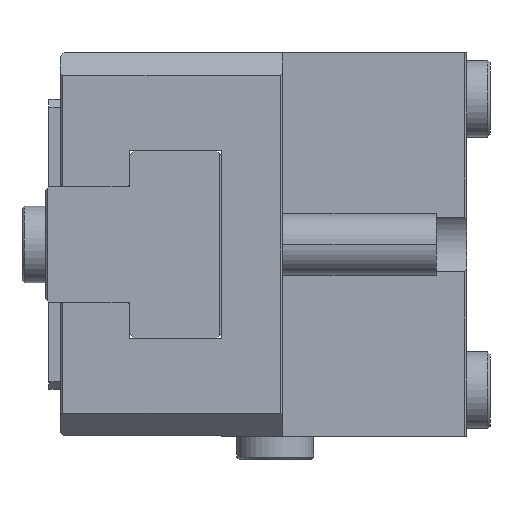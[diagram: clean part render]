
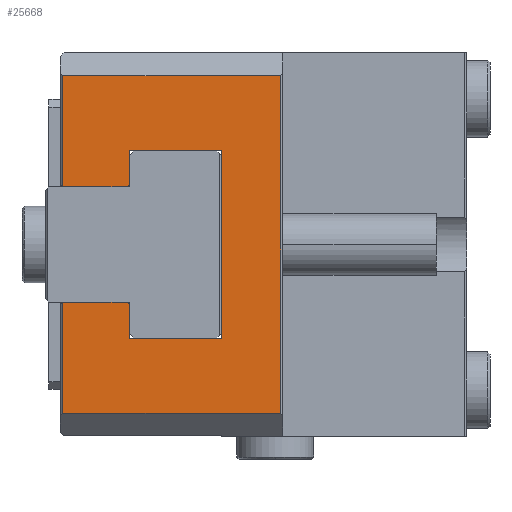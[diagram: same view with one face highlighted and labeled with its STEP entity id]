
A CAD part, left-side view. The second image highlights one B-rep face of the part: STEP entity #25668.
In plain terms, the highlighted planar face has unit normal (-1, 0, 0).
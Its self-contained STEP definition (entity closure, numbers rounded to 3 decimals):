
#160 = CARTESIAN_POINT ( 'NONE',  ( -50., 52.7, 25. ) ) ;
#210 = VECTOR ( 'NONE', #12084, 1000. ) ;
#807 = LINE ( 'NONE', #11211, #41791 ) ;
#1166 = VERTEX_POINT ( 'NONE', #8634 ) ;
#1220 = VECTOR ( 'NONE', #25593, 1000. ) ;
#1592 = CARTESIAN_POINT ( 'NONE',  ( -50., 52.7, 7.5 ) ) ;
#2272 = PLANE ( 'NONE',  #37087 ) ;
#2564 = LINE ( 'NONE', #48429, #34236 ) ;
#3483 = ORIENTED_EDGE ( 'NONE', *, *, #38286, .F. ) ;
#4231 = VERTEX_POINT ( 'NONE', #37249 ) ;
#5763 = CARTESIAN_POINT ( 'NONE',  ( -50., 44., 25. ) ) ;
#6965 = VECTOR ( 'NONE', #45436, 1000. ) ;
#7151 = LINE ( 'NONE', #38546, #49264 ) ;
#7448 = CARTESIAN_POINT ( 'NONE',  ( -50., 24.3, -22. ) ) ;
#7533 = CARTESIAN_POINT ( 'NONE',  ( -50., 52.7, 22. ) ) ;
#8198 = DIRECTION ( 'NONE',  ( 0., 0., 1. ) ) ;
#8634 = CARTESIAN_POINT ( 'NONE',  ( -50., 52.7, -7.5 ) ) ;
#9062 = CARTESIAN_POINT ( 'NONE',  ( -50., 52.7, -7.5 ) ) ;
#9096 = EDGE_CURVE ( 'NONE', #30974, #11066, #22378, .T. ) ;
#9587 = CARTESIAN_POINT ( 'NONE',  ( -50., 44., -7.8 ) ) ;
#10587 = LINE ( 'NONE', #9587, #31635 ) ;
#11066 = VERTEX_POINT ( 'NONE', #22488 ) ;
#11144 = VECTOR ( 'NONE', #26949, 1000. ) ;
#11211 = CARTESIAN_POINT ( 'NONE',  ( -50., 32., 25. ) ) ;
#12084 = DIRECTION ( 'NONE',  ( 0., -1., 0. ) ) ;
#12257 = ORIENTED_EDGE ( 'NONE', *, *, #43160, .F. ) ;
#12749 = ORIENTED_EDGE ( 'NONE', *, *, #30125, .T. ) ;
#13035 = VERTEX_POINT ( 'NONE', #24021 ) ;
#13566 = ORIENTED_EDGE ( 'NONE', *, *, #20462, .F. ) ;
#15342 = DIRECTION ( 'NONE',  ( 0., 0., 1. ) ) ;
#17097 = LINE ( 'NONE', #24599, #46248 ) ;
#17498 = LINE ( 'NONE', #5763, #6965 ) ;
#17939 = CARTESIAN_POINT ( 'NONE',  ( -50., 32., 12.3 ) ) ;
#18709 = LINE ( 'NONE', #9062, #30477 ) ;
#20462 = EDGE_CURVE ( 'NONE', #50859, #4231, #17498, .T. ) ;
#21281 = ORIENTED_EDGE ( 'NONE', *, *, #46861, .T. ) ;
#21360 = CARTESIAN_POINT ( 'NONE',  ( -50., 44., 25. ) ) ;
#21369 = LINE ( 'NONE', #39804, #210 ) ;
#21613 = EDGE_CURVE ( 'NONE', #1166, #13035, #18709, .T. ) ;
#22115 = CARTESIAN_POINT ( 'NONE',  ( -50., 102.7, 22. ) ) ;
#22378 = LINE ( 'NONE', #22115, #1220 ) ;
#22453 = CARTESIAN_POINT ( 'NONE',  ( -50., 52.7, 25. ) ) ;
#22488 = CARTESIAN_POINT ( 'NONE',  ( -50., 24.3, 22. ) ) ;
#22828 = DIRECTION ( 'NONE',  ( 0., 1., 0. ) ) ;
#23941 = EDGE_CURVE ( 'NONE', #38491, #1166, #42752, .T. ) ;
#24021 = CARTESIAN_POINT ( 'NONE',  ( -50., 44.3, -7.5 ) ) ;
#24093 = ORIENTED_EDGE ( 'NONE', *, *, #48877, .F. ) ;
#24599 = CARTESIAN_POINT ( 'NONE',  ( -50., 52.7, -22. ) ) ;
#24632 = CARTESIAN_POINT ( 'NONE',  ( -50., 44.3, 7.5 ) ) ;
#25245 = CARTESIAN_POINT ( 'NONE',  ( -50., 52.7, -22. ) ) ;
#25341 = DIRECTION ( 'NONE',  ( 0., 0., -1. ) ) ;
#25551 = ORIENTED_EDGE ( 'NONE', *, *, #47675, .F. ) ;
#25593 = DIRECTION ( 'NONE',  ( 0., -1., 0. ) ) ;
#25668 = ADVANCED_FACE ( 'NONE', ( #27792 ), #2272, .F. ) ;
#25732 = VECTOR ( 'NONE', #48125, 1000. ) ;
#26408 = LINE ( 'NONE', #21360, #36858 ) ;
#26441 = DIRECTION ( 'NONE',  ( 0., 1., 0. ) ) ;
#26949 = DIRECTION ( 'NONE',  ( 0., 0., 1. ) ) ;
#27766 = LINE ( 'NONE', #35766, #37010 ) ;
#27792 = FACE_OUTER_BOUND ( 'NONE', #42669, .T. ) ;
#27888 = ORIENTED_EDGE ( 'NONE', *, *, #9096, .F. ) ;
#30125 = EDGE_CURVE ( 'NONE', #35592, #4231, #46775, .T. ) ;
#30477 = VECTOR ( 'NONE', #36729, 1000. ) ;
#30974 = VERTEX_POINT ( 'NONE', #7533 ) ;
#31404 = VECTOR ( 'NONE', #8198, 1000. ) ;
#31635 = VECTOR ( 'NONE', #37245, 1000. ) ;
#32619 = LINE ( 'NONE', #160, #31404 ) ;
#32901 = EDGE_CURVE ( 'NONE', #41756, #11066, #2564, .T. ) ;
#33701 = CARTESIAN_POINT ( 'NONE',  ( -50., 44., -7.8 ) ) ;
#34236 = VECTOR ( 'NONE', #48256, 1000. ) ;
#35029 = EDGE_CURVE ( 'NONE', #38598, #13035, #10587, .T. ) ;
#35592 = VERTEX_POINT ( 'NONE', #50855 ) ;
#35766 = CARTESIAN_POINT ( 'NONE',  ( -50., 52.7, 12.3 ) ) ;
#35868 = CARTESIAN_POINT ( 'NONE',  ( -50., 32., -12.3 ) ) ;
#36729 = DIRECTION ( 'NONE',  ( 0., -1., 0. ) ) ;
#36858 = VECTOR ( 'NONE', #25341, 1000. ) ;
#37010 = VECTOR ( 'NONE', #39779, 1000. ) ;
#37087 = AXIS2_PLACEMENT_3D ( 'NONE', #22453, #50114, #26441 ) ;
#37241 = ORIENTED_EDGE ( 'NONE', *, *, #23941, .F. ) ;
#37245 = DIRECTION ( 'NONE',  ( 0., 0.707, 0.707 ) ) ;
#37249 = CARTESIAN_POINT ( 'NONE',  ( -50., 44., 7.8 ) ) ;
#38286 = EDGE_CURVE ( 'NONE', #44442, #50859, #27766, .T. ) ;
#38373 = CARTESIAN_POINT ( 'NONE',  ( -50., 44., 12.3 ) ) ;
#38491 = VERTEX_POINT ( 'NONE', #25245 ) ;
#38546 = CARTESIAN_POINT ( 'NONE',  ( -50., 52.7, 7.5 ) ) ;
#38598 = VERTEX_POINT ( 'NONE', #33701 ) ;
#39723 = ORIENTED_EDGE ( 'NONE', *, *, #49330, .F. ) ;
#39779 = DIRECTION ( 'NONE',  ( 0., 1., 0. ) ) ;
#39804 = CARTESIAN_POINT ( 'NONE',  ( -50., 52.7, -12.3 ) ) ;
#40498 = ORIENTED_EDGE ( 'NONE', *, *, #32901, .T. ) ;
#41371 = EDGE_CURVE ( 'NONE', #47338, #30974, #32619, .T. ) ;
#41756 = VERTEX_POINT ( 'NONE', #7448 ) ;
#41791 = VECTOR ( 'NONE', #15342, 1000. ) ;
#42321 = ORIENTED_EDGE ( 'NONE', *, *, #41371, .F. ) ;
#42669 = EDGE_LOOP ( 'NONE', ( #47797, #37241, #21281, #40498, #27888, #42321, #12257, #12749, #13566, #3483, #39723, #24093, #25551, #48393 ) ) ;
#42729 = CARTESIAN_POINT ( 'NONE',  ( -50., 44., -12.3 ) ) ;
#42752 = LINE ( 'NONE', #46653, #11144 ) ;
#43160 = EDGE_CURVE ( 'NONE', #35592, #47338, #7151, .T. ) ;
#44147 = DIRECTION ( 'NONE',  ( 0., -1., 0. ) ) ;
#44442 = VERTEX_POINT ( 'NONE', #17939 ) ;
#44683 = VERTEX_POINT ( 'NONE', #35868 ) ;
#45436 = DIRECTION ( 'NONE',  ( 0., 0., -1. ) ) ;
#46248 = VECTOR ( 'NONE', #44147, 1000. ) ;
#46653 = CARTESIAN_POINT ( 'NONE',  ( -50., 52.7, 25. ) ) ;
#46775 = LINE ( 'NONE', #24632, #25732 ) ;
#46861 = EDGE_CURVE ( 'NONE', #38491, #41756, #17097, .T. ) ;
#47338 = VERTEX_POINT ( 'NONE', #1592 ) ;
#47675 = EDGE_CURVE ( 'NONE', #38598, #50884, #26408, .T. ) ;
#47797 = ORIENTED_EDGE ( 'NONE', *, *, #21613, .F. ) ;
#48125 = DIRECTION ( 'NONE',  ( 0., -0.707, 0.707 ) ) ;
#48256 = DIRECTION ( 'NONE',  ( 0., 0., 1. ) ) ;
#48393 = ORIENTED_EDGE ( 'NONE', *, *, #35029, .T. ) ;
#48429 = CARTESIAN_POINT ( 'NONE',  ( -50., 24.3, 25. ) ) ;
#48877 = EDGE_CURVE ( 'NONE', #50884, #44683, #21369, .T. ) ;
#49264 = VECTOR ( 'NONE', #22828, 1000. ) ;
#49330 = EDGE_CURVE ( 'NONE', #44683, #44442, #807, .T. ) ;
#50114 = DIRECTION ( 'NONE',  ( 1., 0., 0. ) ) ;
#50855 = CARTESIAN_POINT ( 'NONE',  ( -50., 44.3, 7.5 ) ) ;
#50859 = VERTEX_POINT ( 'NONE', #38373 ) ;
#50884 = VERTEX_POINT ( 'NONE', #42729 ) ;
